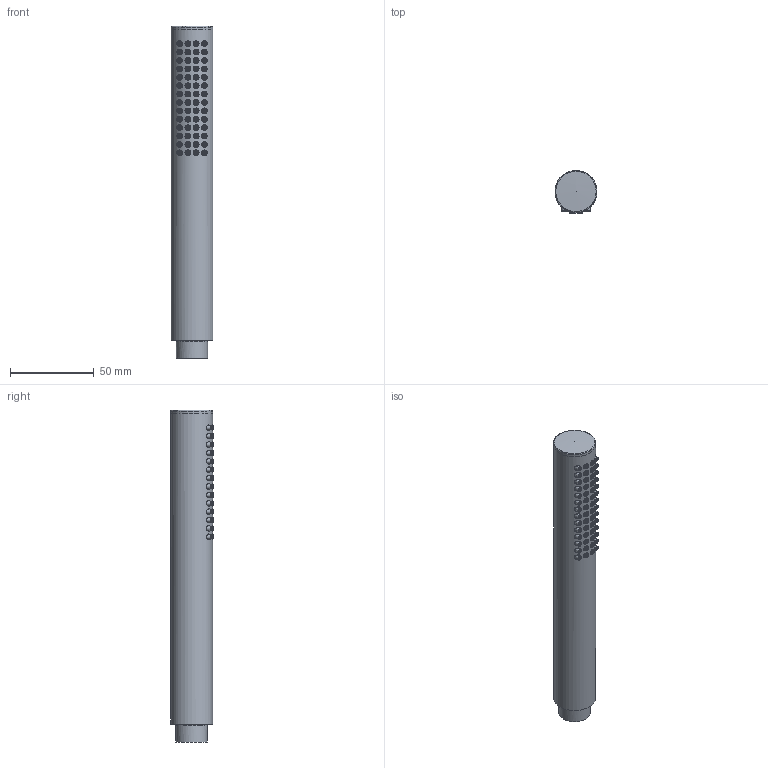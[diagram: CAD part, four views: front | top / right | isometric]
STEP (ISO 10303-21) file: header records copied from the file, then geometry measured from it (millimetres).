
FILE_DESCRIPTION(/* description */ (''),/* implementation_level */ '2;1');
FILE_NAME(/* name */ 'TVS10841401.step',/* time_stamp */ '2022-12-07T15:34:07+01:00',/* author */ (''),/* organization */ (''),/* preprocessor_version */ 'ST-DEVELOPER v19.2',/* originating_system */ 'Autodesk Translation Framework v11.17.0.187',/* authorisation */ '');
FILE_SCHEMA (('AUTOMOTIVE_DESIGN { 1 0 10303 214 3 1 1 }'));
Length unit declared in the file: millimetre
Products named in the file (7): (Nicht gespeichert); P74500-001; P74500-002; P74500-003; P74500-004; P74500-005; 40000027
Assembly tree (6 placements, depth 2):
  (Nicht gespeichert)
    P74500-001
    P74500-002
    P74500-003
    P74500-004
    P74500-005
    40000027
Bounding box: 25 x 25.5 x 197.74 mm (x, y, z)
Volume: 30884.4 mm3; surface area: 46611.5 mm2
Topology: 6 solids, 6 shells, 734 faces, 2185 edges, 1441 vertices
Faces by surface type: bspline 227, cylinder 223, plane 146, torus 80, cone 57, sphere 1
Full cylindrical faces by diameter (mm): 2.6 x56, 2.8 x112, 18.631 x1, 19.5 x1, 21.4 x1, 21.7 x1, 23 x1, 25 x2
Entity records: 97260 total; most frequent: CARTESIAN_POINT 78671, ORIENTED_EDGE 4368, DIRECTION 3074, EDGE_CURVE 2184, VERTEX_POINT 1441, AXIS2_PLACEMENT_3D 1270, EDGE_LOOP 1053, B_SPLINE_CURVE_WITH_KNOTS 898
